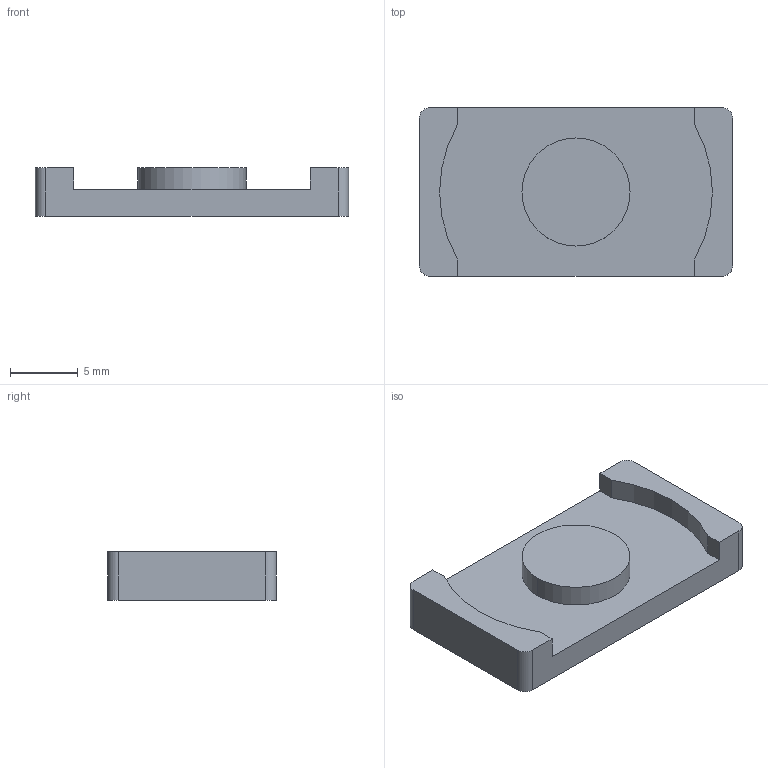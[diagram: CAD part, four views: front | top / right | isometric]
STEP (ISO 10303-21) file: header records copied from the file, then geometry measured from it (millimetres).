
FILE_DESCRIPTION (( 'STEP AP214' ), '1' );
FILE_NAME ('9579230402.STEP', '2025-02-27T18:04:39', ( '' ), ( '' ), 'SwSTEP 2.0', 'SolidWorks 2025', '' );
FILE_SCHEMA (( 'AUTOMOTIVE_DESIGN' ));
Length unit declared in the file: inch
Products named in the file (1): 9579230402
Bounding box: 23.19 x 12.5 x 3.61 mm (x, y, z)
Volume: 744.5 mm3; surface area: 856.8 mm2
Topology: 1 solids, 1 shells, 22 faces, 57 edges, 38 vertices
Faces by surface type: plane 13, cylinder 9
Entity records: 706 total; most frequent: DIRECTION 121, CARTESIAN_POINT 118, ORIENTED_EDGE 114, EDGE_CURVE 57, AXIS2_PLACEMENT_3D 41, VECTOR 39, LINE 39, VERTEX_POINT 38
